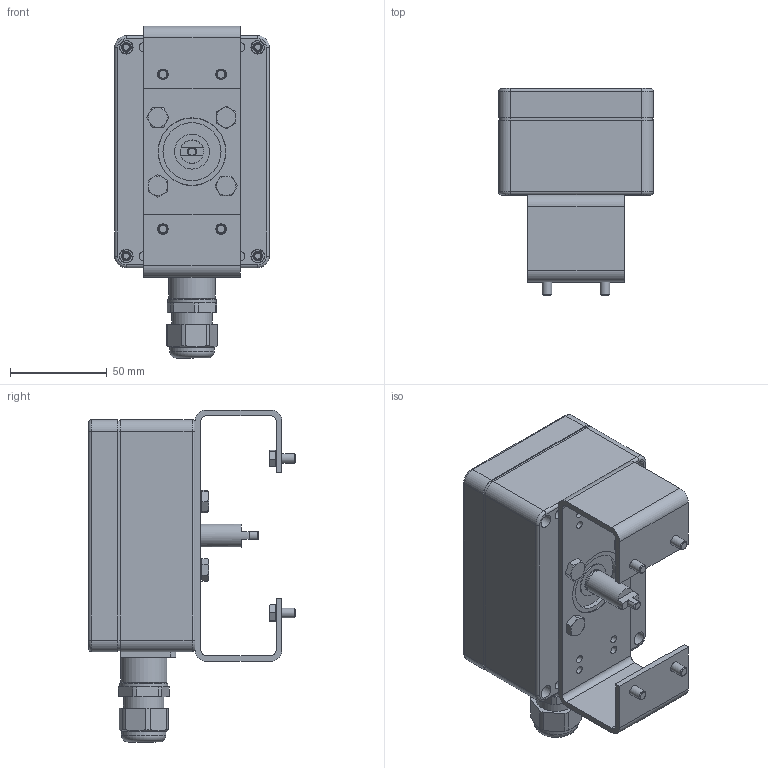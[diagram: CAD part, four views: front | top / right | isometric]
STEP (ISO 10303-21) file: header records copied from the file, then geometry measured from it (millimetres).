
FILE_DESCRIPTION((''),'2;1');
FILE_NAME('C:\Users\war\Desktop\V215_MS10-43.stp','2017-01-11T17:25:37',('war'),(''),'Autodesk Inventor 2013','Autodesk Inventor 2013','');
FILE_SCHEMA(('AUTOMOTIVE_DESIGN { 1 0 10303 214 1 1 1 1 }'));
Length unit declared in the file: millimetre
Products named in the file (1): ENG-053279_Shrinkwrap_1
Bounding box: 80 x 107.07 x 171.7 mm (x, y, z)
Volume: 214233.4 mm3; surface area: 125425.7 mm2
Topology: 2 solids, 15 shells, 1004 faces, 2507 edges, 1626 vertices
Faces by surface type: plane 517, cylinder 307, cone 131, torus 45, sphere 4
Full cylindrical faces by diameter (mm): 3.242 x1, 3.621 x4, 4 x22, 4.134 x8, 4.567 x4, 4.7 x4, 4.917 x4, 5 x8, 5.459 x4, 5.5 x4, 6.5 x4, 6.7 x8, 7 x4, 7.4 x4, 8 x4, 8.3 x1, 8.7 x4, 9.3 x1, 11.1 x2, 12 x5, 12.05 x1, 12.1 x1, 13 x2, 18 x2, 18.376 x1, 20 x1, 20.95 x1, 21 x1, 23 x1, 24 x1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
Entity records: 30259 total; most frequent: CARTESIAN_POINT 5990, DIRECTION 4991, ORIENTED_EDGE 4542, EDGE_CURVE 2271, AXIS2_PLACEMENT_3D 1927, VERTEX_POINT 1566, EDGE_LOOP 1295, VECTOR 1137
